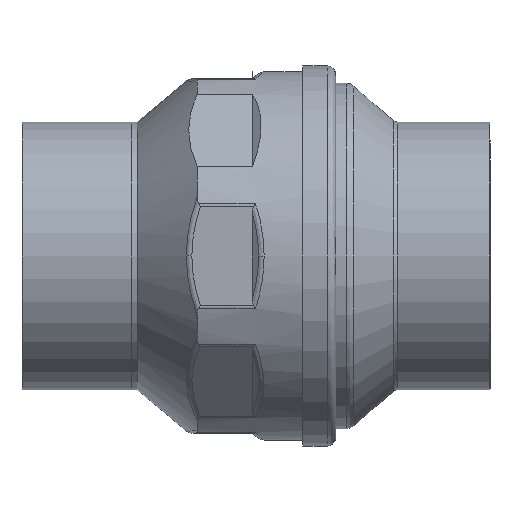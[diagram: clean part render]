
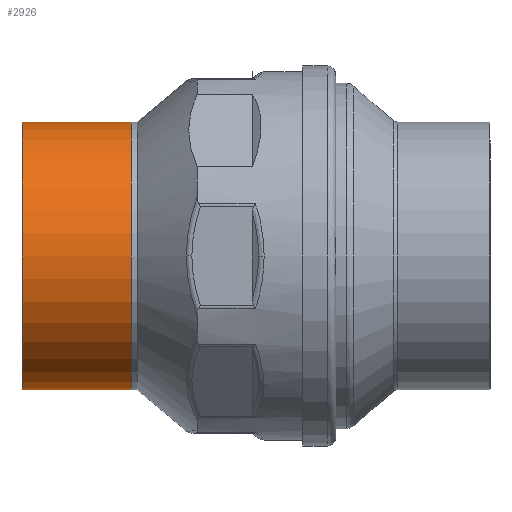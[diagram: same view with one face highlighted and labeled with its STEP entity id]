
A CAD part, front view. The second image highlights one B-rep face of the part: STEP entity #2926.
In plain terms, the highlighted cylindrical face has radius 46.5 mm (diameter 93 mm), a full revolution.
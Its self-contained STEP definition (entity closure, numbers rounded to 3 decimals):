
#2876=CARTESIAN_POINT('',(-127.17,60.17,0.));
#2877=DIRECTION('',(-1.0,0.,0.));
#2878=DIRECTION('',(0.,0.,-1.0));
#2879=AXIS2_PLACEMENT_3D('',#2876,#2877,#2878);
#2880=CYLINDRICAL_SURFACE('',#2879,46.5);
#2881=CARTESIAN_POINT('',(-127.17,60.17,-46.5));
#2882=VERTEX_POINT('',#2881);
#2883=CARTESIAN_POINT('',(-127.17,60.17,46.5));
#2884=VERTEX_POINT('',#2883);
#2885=CARTESIAN_POINT('',(-127.17,60.17,0.));
#2886=DIRECTION('',(-1.0,0.,0.));
#2887=DIRECTION('',(0.,0.,-1.0));
#2888=AXIS2_PLACEMENT_3D('',#2885,#2886,#2887);
#2889=CIRCLE('',#2888,46.5);
#2890=EDGE_CURVE('',#2882,#2884,#2889,.T.);
#2891=ORIENTED_EDGE('',*,*,#2890,.T.);
#2892=CARTESIAN_POINT('',(-127.17,60.17,0.));
#2893=DIRECTION('',(-1.0,0.,0.));
#2894=DIRECTION('',(0.,0.,-1.0));
#2895=AXIS2_PLACEMENT_3D('',#2892,#2893,#2894);
#2896=CIRCLE('',#2895,46.5);
#2897=EDGE_CURVE('',#2884,#2882,#2896,.T.);
#2898=ORIENTED_EDGE('',*,*,#2897,.T.);
#2899=CARTESIAN_POINT('',(-165.17,60.17,-46.5));
#2900=VERTEX_POINT('',#2899);
#2901=CARTESIAN_POINT('',(-127.17,60.17,-46.5));
#2902=DIRECTION('',(-1.0,0.0,0.0));
#2903=VECTOR('',#2902,38.0);
#2904=LINE('',#2901,#2903);
#2905=EDGE_CURVE('',#2882,#2900,#2904,.T.);
#2906=ORIENTED_EDGE('',*,*,#2905,.T.);
#2907=CARTESIAN_POINT('',(-165.17,60.17,46.5));
#2908=VERTEX_POINT('',#2907);
#2909=CARTESIAN_POINT('',(-165.17,60.17,0.));
#2910=DIRECTION('',(-1.0,0.,0.));
#2911=DIRECTION('',(0.,0.,-1.0));
#2912=AXIS2_PLACEMENT_3D('',#2909,#2910,#2911);
#2913=CIRCLE('',#2912,46.5);
#2914=EDGE_CURVE('',#2908,#2900,#2913,.T.);
#2915=ORIENTED_EDGE('',*,*,#2914,.F.);
#2916=CARTESIAN_POINT('',(-165.17,60.17,0.));
#2917=DIRECTION('',(-1.0,0.,0.));
#2918=DIRECTION('',(0.,0.,-1.0));
#2919=AXIS2_PLACEMENT_3D('',#2916,#2917,#2918);
#2920=CIRCLE('',#2919,46.5);
#2921=EDGE_CURVE('',#2900,#2908,#2920,.T.);
#2922=ORIENTED_EDGE('',*,*,#2921,.F.);
#2923=ORIENTED_EDGE('',*,*,#2905,.F.);
#2924=EDGE_LOOP('',(#2891,#2898,#2906,#2915,#2922,#2923));
#2925=FACE_OUTER_BOUND('',#2924,.T.);
#2926=ADVANCED_FACE('',(#2925),#2880,.T.);
